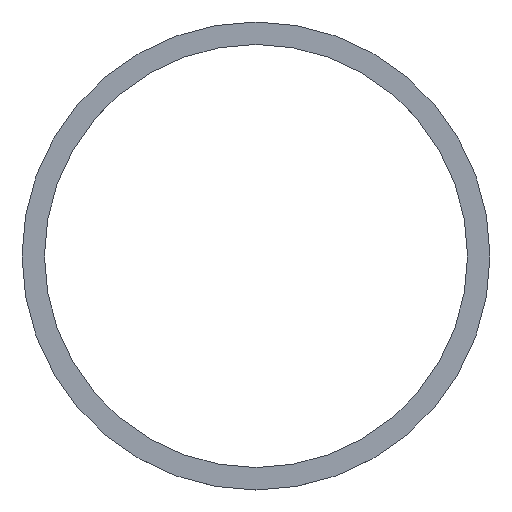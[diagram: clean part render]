
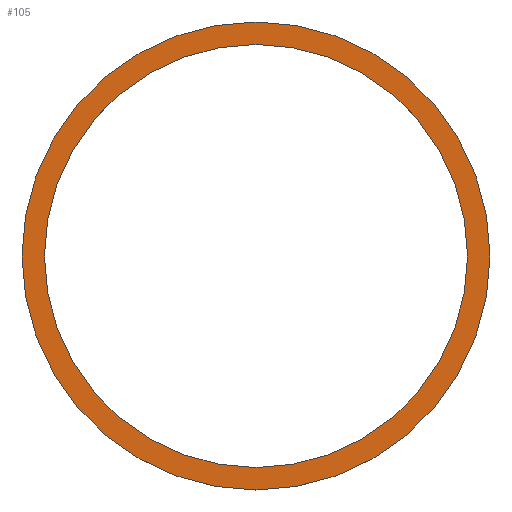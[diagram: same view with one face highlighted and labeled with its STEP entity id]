
A CAD part, top view. The second image highlights one B-rep face of the part: STEP entity #105.
In plain terms, the highlighted planar face has unit normal (0, 0, 1).
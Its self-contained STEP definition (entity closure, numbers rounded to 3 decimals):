
#21 = EDGE_CURVE('',#22,#22,#24,.T.);
#22 = VERTEX_POINT('',#23);
#23 = CARTESIAN_POINT('',(19.8,42.,-2.2));
#24 = SURFACE_CURVE('',#25,(#30,#42),.PCURVE_S1.);
#25 = CIRCLE('',#26,19.8);
#26 = AXIS2_PLACEMENT_3D('',#27,#28,#29);
#27 = CARTESIAN_POINT('',(0.,42.,-2.2));
#28 = DIRECTION('',(0.,0.,1.));
#29 = DIRECTION('',(1.,0.,-0.));
#30 = PCURVE('',#31,#36);
#31 = CYLINDRICAL_SURFACE('',#32,19.8);
#32 = AXIS2_PLACEMENT_3D('',#33,#34,#35);
#33 = CARTESIAN_POINT('',(0.,42.,-2.65));
#34 = DIRECTION('',(0.,0.,1.));
#35 = DIRECTION('',(1.,0.,-0.));
#36 = DEFINITIONAL_REPRESENTATION('',(#37),#41);
#37 = LINE('',#38,#39);
#38 = CARTESIAN_POINT('',(0.,0.45));
#39 = VECTOR('',#40,1.);
#40 = DIRECTION('',(1.,0.));
#41 = ( GEOMETRIC_REPRESENTATION_CONTEXT(2) 
PARAMETRIC_REPRESENTATION_CONTEXT() REPRESENTATION_CONTEXT('2D SPACE',''
  ) );
#42 = PCURVE('',#43,#48);
#43 = PLANE('',#44);
#44 = AXIS2_PLACEMENT_3D('',#45,#46,#47);
#45 = CARTESIAN_POINT('',(0.,42.,-2.2));
#46 = DIRECTION('',(0.,0.,1.));
#47 = DIRECTION('',(1.,0.,-0.));
#48 = DEFINITIONAL_REPRESENTATION('',(#49),#53);
#49 = CIRCLE('',#50,19.8);
#50 = AXIS2_PLACEMENT_2D('',#51,#52);
#51 = CARTESIAN_POINT('',(0.,0.));
#52 = DIRECTION('',(1.,0.));
#53 = ( GEOMETRIC_REPRESENTATION_CONTEXT(2) 
PARAMETRIC_REPRESENTATION_CONTEXT() REPRESENTATION_CONTEXT('2D SPACE',''
  ) );
#105 = ADVANCED_FACE('',(#106,#109),#43,.T.);
#106 = FACE_BOUND('',#107,.T.);
#107 = EDGE_LOOP('',(#108));
#108 = ORIENTED_EDGE('',*,*,#21,.T.);
#109 = FACE_BOUND('',#110,.T.);
#110 = EDGE_LOOP('',(#111));
#111 = ORIENTED_EDGE('',*,*,#112,.F.);
#112 = EDGE_CURVE('',#113,#113,#115,.T.);
#113 = VERTEX_POINT('',#114);
#114 = CARTESIAN_POINT('',(17.9,42.,-2.2));
#115 = SURFACE_CURVE('',#116,(#121,#128),.PCURVE_S1.);
#116 = CIRCLE('',#117,17.9);
#117 = AXIS2_PLACEMENT_3D('',#118,#119,#120);
#118 = CARTESIAN_POINT('',(0.,42.,-2.2));
#119 = DIRECTION('',(0.,0.,1.));
#120 = DIRECTION('',(1.,0.,-0.));
#121 = PCURVE('',#43,#122);
#122 = DEFINITIONAL_REPRESENTATION('',(#123),#127);
#123 = CIRCLE('',#124,17.9);
#124 = AXIS2_PLACEMENT_2D('',#125,#126);
#125 = CARTESIAN_POINT('',(0.,0.));
#126 = DIRECTION('',(1.,0.));
#127 = ( GEOMETRIC_REPRESENTATION_CONTEXT(2) 
PARAMETRIC_REPRESENTATION_CONTEXT() REPRESENTATION_CONTEXT('2D SPACE',''
  ) );
#128 = PCURVE('',#129,#134);
#129 = CYLINDRICAL_SURFACE('',#130,17.9);
#130 = AXIS2_PLACEMENT_3D('',#131,#132,#133);
#131 = CARTESIAN_POINT('',(0.,42.,-2.75));
#132 = DIRECTION('',(0.,0.,1.));
#133 = DIRECTION('',(1.,0.,-0.));
#134 = DEFINITIONAL_REPRESENTATION('',(#135),#139);
#135 = LINE('',#136,#137);
#136 = CARTESIAN_POINT('',(0.,0.55));
#137 = VECTOR('',#138,1.);
#138 = DIRECTION('',(1.,0.));
#139 = ( GEOMETRIC_REPRESENTATION_CONTEXT(2) 
PARAMETRIC_REPRESENTATION_CONTEXT() REPRESENTATION_CONTEXT('2D SPACE',''
  ) );
